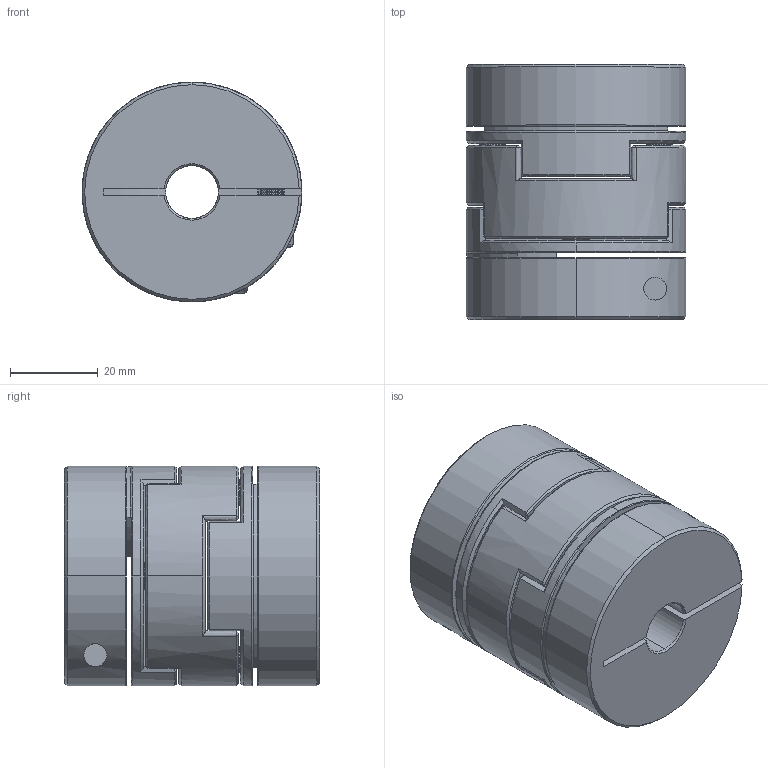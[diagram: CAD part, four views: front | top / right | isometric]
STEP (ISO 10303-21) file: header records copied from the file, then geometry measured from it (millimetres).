
FILE_DESCRIPTION (( 'STEP AP203' ), '1' );
FILE_NAME ('LZ-B-D50L58-12-12.STEP', '2021-10-29T07:24:49', ( '' ), ( '' ), 'SwSTEP 2.0', 'SolidWorks 2018', '' );
FILE_SCHEMA (( 'CONFIG_CONTROL_DESIGN' ));
Length unit declared in the file: millimetre
Products named in the file (1): LZ-B-D50L58-12-12
Bounding box: 50 x 58 x 50 mm (x, y, z)
Volume: 97356.4 mm3; surface area: 30307.9 mm2
Topology: 1 solids, 27 shells, 560 faces, 1364 edges, 810 vertices
Faces by surface type: cone 252, cylinder 160, plane 90, bspline 54, torus 4
Entity records: 17422 total; most frequent: CARTESIAN_POINT 4342, DIRECTION 2782, ORIENTED_EDGE 2720, EDGE_CURVE 1360, AXIS2_PLACEMENT_3D 1123, VERTEX_POINT 810, CIRCLE 616, EDGE_LOOP 594
